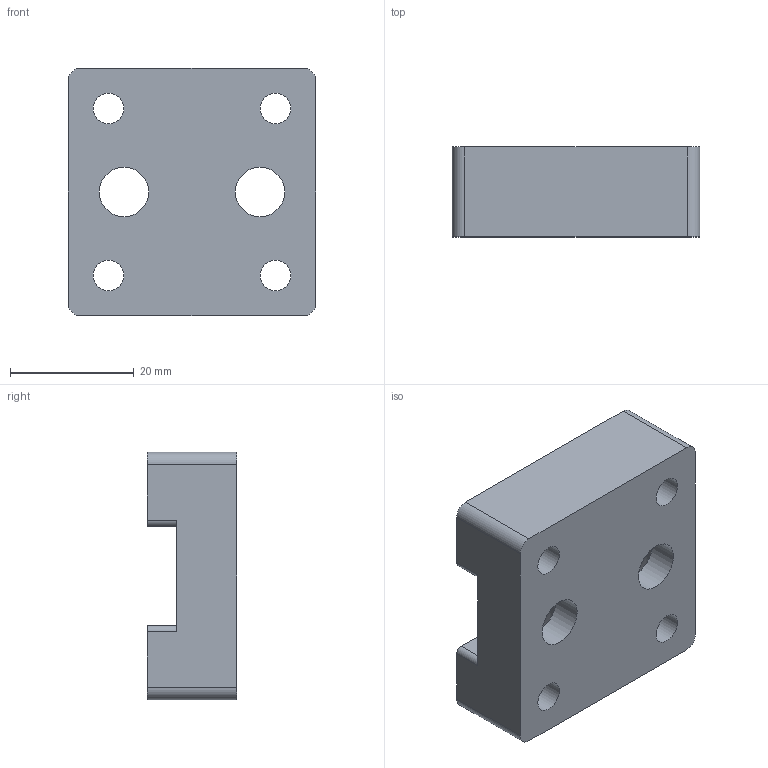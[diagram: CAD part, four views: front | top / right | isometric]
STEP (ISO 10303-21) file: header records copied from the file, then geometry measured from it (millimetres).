
FILE_DESCRIPTION(/* description */ (''),/* implementation_level */ '2;1');
FILE_NAME(/* name */ 'C:\Users\Nicholas Foo\Google Drive\Hari''s Mobility Solution\Design documents\P1\STEP\Mount_Motor_Base_2.stp',/* time_stamp */ '2017-09-30T10:29:44+08:00',/* author */ ('NicK Foo'),/* organization */ (''),/* preprocessor_version */ 'ST-DEVELOPER v16.13',/* originating_system */ 'Autodesk Inventor 2018',/* authorisation */ '');
FILE_SCHEMA (('AUTOMOTIVE_DESIGN { 1 0 10303 214 3 1 1 }'));
Length unit declared in the file: millimetre
Products named in the file (1): Mount_Motor_Base_2
Bounding box: 40 x 14.5 x 40 mm (x, y, z)
Volume: 17197.4 mm3; surface area: 6694.9 mm2
Topology: 1 solids, 1 shells, 28 faces, 93 edges, 79 vertices
Faces by surface type: cylinder 16, plane 10, cone 2
Full cylindrical faces by diameter (mm): 4.917 x4, 8 x2, 15.8 x2
Entity records: 972 total; most frequent: CARTESIAN_POINT 168, DIRECTION 160, ORIENTED_EDGE 128, EDGE_CURVE 64, AXIS2_PLACEMENT_3D 64, EDGE_LOOP 50, VERTEX_POINT 48, CIRCLE 35
